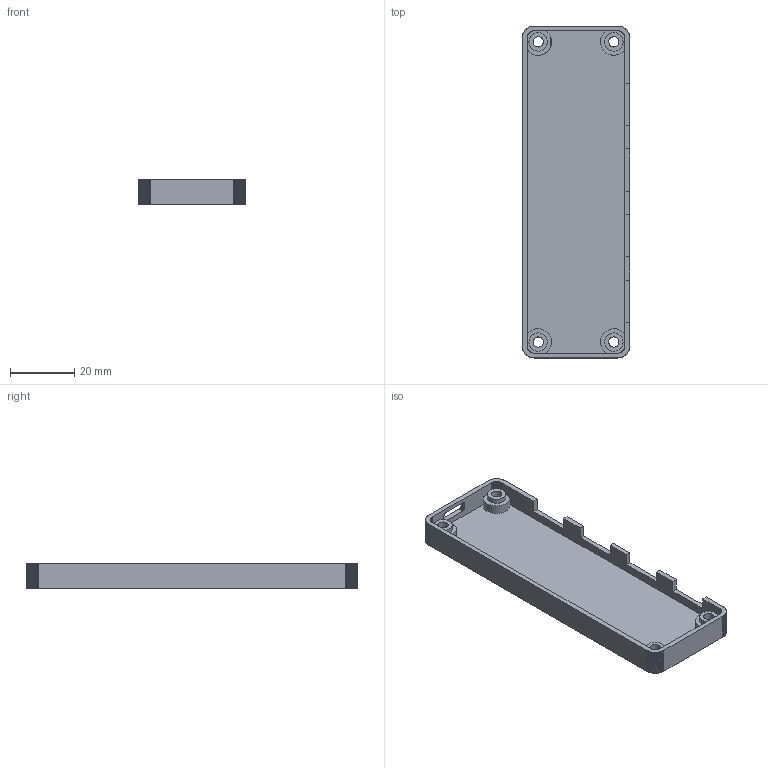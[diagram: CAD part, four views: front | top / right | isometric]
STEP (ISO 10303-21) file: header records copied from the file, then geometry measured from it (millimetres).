
FILE_DESCRIPTION(('Designed by EasyEDA Pro'),'2;1');
FILE_NAME('Open CASCADE Shape Model','2026-10-25T11:58:53',('Author'),( 'Open CASCADE'),'Open CASCADE STEP processor 7.8','Open CASCADE 7.8' ,'Unknown');
FILE_SCHEMA(('AUTOMOTIVE_DESIGN { 1 0 10303 214 1 1 1 1 }'));
Length unit declared in the file: millimetre
Products named in the file (1): Open CASCADE STEP translator 7.8 2
Bounding box: 33.5 x 103.5 x 8 mm (x, y, z)
Volume: 7707.7 mm3; surface area: 10793.9 mm2
Topology: 1 solids, 1 shells, 347 faces, 1012 edges, 675 vertices
Faces by surface type: bspline 347
Entity records: 22014 total; most frequent: CARTESIAN_POINT 8900, B_SPLINE_CURVE_WITH_KNOTS 2918, ORIENTED_EDGE 2024, PCURVE 2024, DEFINITIONAL_REPRESENTATION 2024, EDGE_CURVE 1012, SURFACE_CURVE 1000, VERTEX_POINT 675
